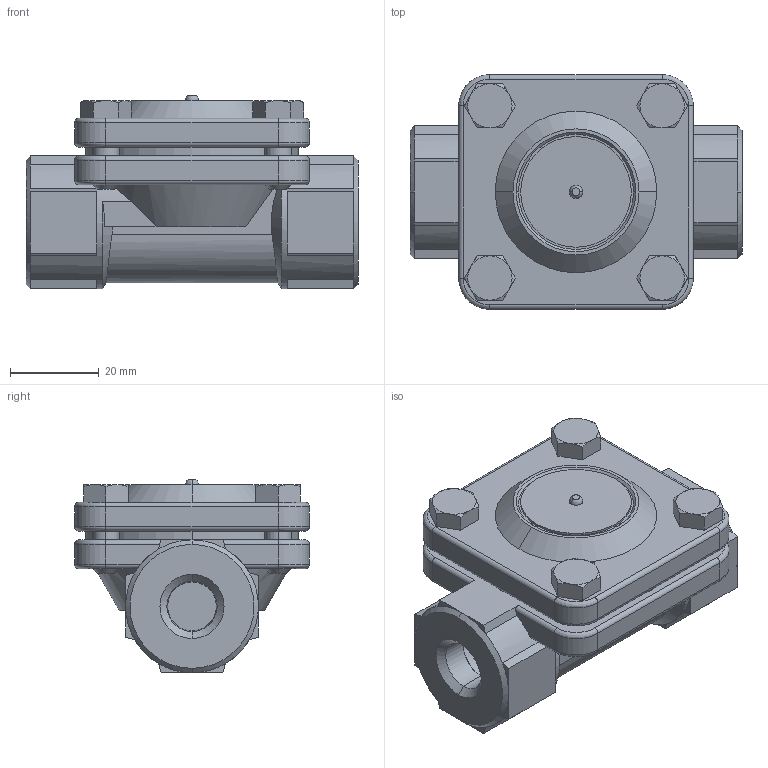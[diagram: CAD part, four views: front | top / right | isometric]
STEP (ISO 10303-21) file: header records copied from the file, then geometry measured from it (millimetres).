
FILE_DESCRIPTION( (''), '2;1');
FILE_NAME ('PC1276.4340.8A_12719.stp','2023-07-04T16:27:53',(''),(''),'spGate 19.8.4 (****-****-****-****)','','');
FILE_SCHEMA (('AUTOMOTIVE_DESIGN'));
Length unit declared in the file: millimetre
Bounding box: 75 x 53 x 43.7 mm (x, y, z)
Volume: 83885.3 mm3; surface area: 18431.7 mm2
Topology: 1 solids, 1 shells, 240 faces, 564 edges, 342 vertices
Faces by surface type: plane 115, bspline 72, cylinder 51, sphere 2
Entity records: 12415 total; most frequent: CARTESIAN_POINT 2646, ORIENTED_EDGE 1128, DIRECTION 990, COLOUR_RGB 805, PRESENTATION_STYLE_ASSIGNMENT 805, STYLED_ITEM 805, EDGE_CURVE 564, DRAUGHTING_PRE_DEFINED_CURVE_FONT 564
